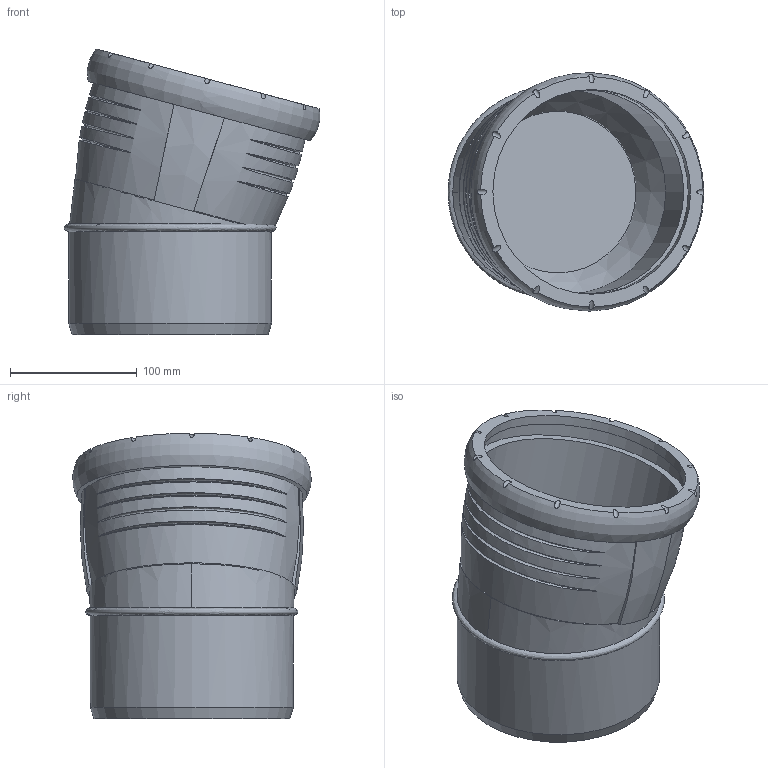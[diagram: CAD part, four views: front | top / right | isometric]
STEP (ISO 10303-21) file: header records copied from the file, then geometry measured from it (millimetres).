
FILE_DESCRIPTION(/* description */ (''),/* implementation_level */ '2;1');
FILE_NAME(/* name */ 'H:\Geberit-Teile\Export\Bogen_TEST\stp\393720.stp',/* time_stamp */ '2017-02-14T10:16:24+01:00',/* author */ ('seihe2'),/* organization */ (''),/* preprocessor_version */ 'ST-DEVELOPER v15.2',/* originating_system */ 'Autodesk Inventor 2014',/* authorisation */ '');
FILE_SCHEMA (('AUTOMOTIVE_DESIGN { 1 0 10303 214 3 1 1 }'));
Length unit declared in the file: millimetre
Products named in the file (1): 393720
Bounding box: 201.94 x 188.24 x 225.63 mm (x, y, z)
Volume: 1106693.3 mm3; surface area: 272031.8 mm2
Topology: 2 solids, 2 shells, 56 faces, 141 edges, 99 vertices
Faces by surface type: bspline 26, cylinder 19, plane 8, cone 2, torus 1
Full cylindrical faces by diameter (mm): 148.25 x1, 160.25 x1, 161.2 x1, 161.7 x1, 174.9 x1
Entity records: 4269 total; most frequent: CARTESIAN_POINT 3027, ORIENTED_EDGE 266, DIRECTION 183, EDGE_CURVE 130, VERTEX_POINT 96, AXIS2_PLACEMENT_3D 91, EDGE_LOOP 78, B_SPLINE_CURVE_WITH_KNOTS 69
